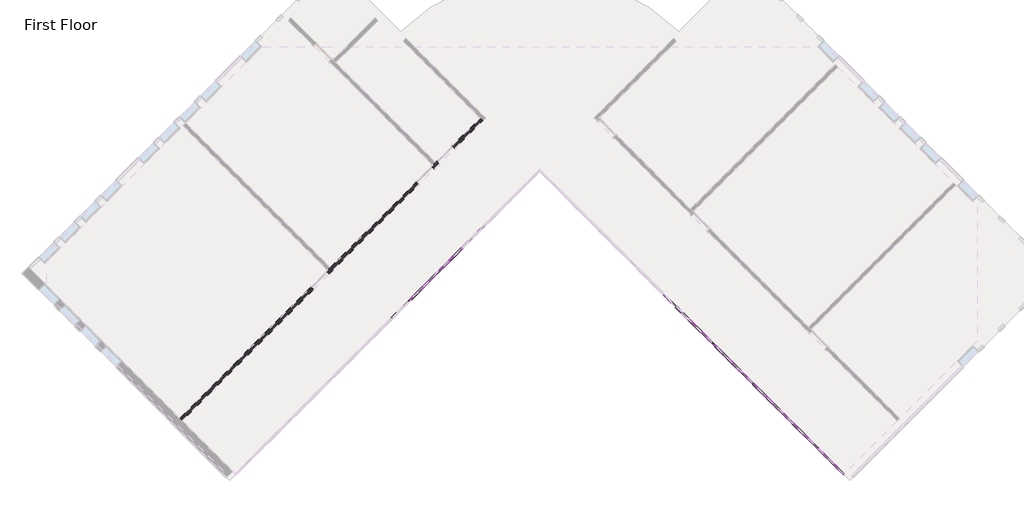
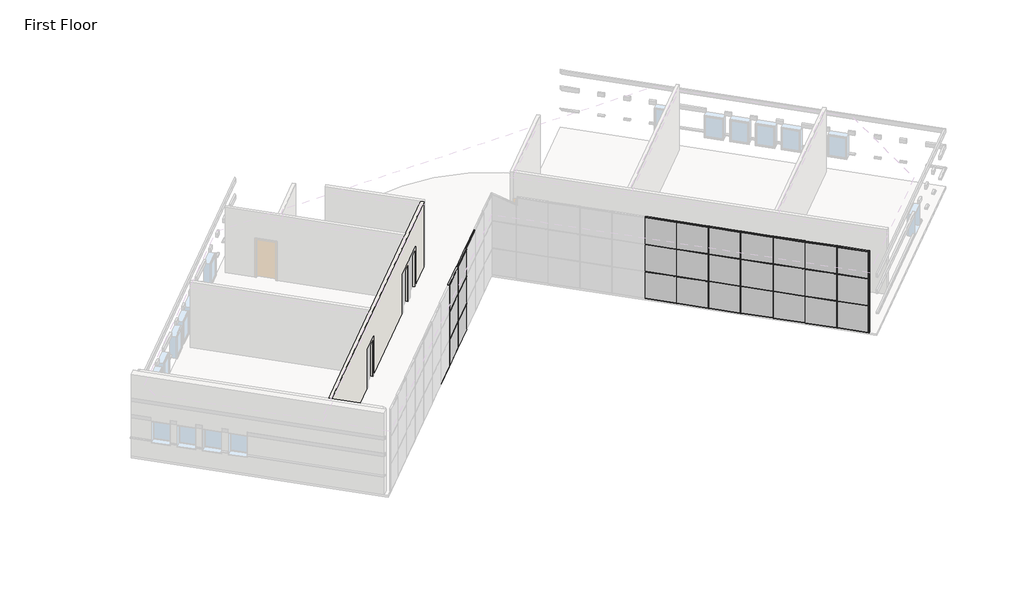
# One storey, part 2 of 5: 67 members, 27 plates, 1 wall.
"""IFC4 building model written with IfcOpenShell, lengths in millimetres."""

import ifcopenshell
import ifcopenshell.guid

model = None  # the IFC model being written
_history = None  # IfcOwnerHistory: only IFC2X3 demands one
_inside = {}  # id of a spatial element -> (the spatial element, [elements in it])
_under = {}  # id of a project, library or spatial element -> (it, [spatial elements below it])
_declared = {}  # id of a project -> (the project, [libraries it declares])
_typed = {}  # id of a type object -> (the type object, [elements of that type])
_made_of = {}  # id of a material, layer set ... -> (it, [elements and type objects made of it])


def new_model(schema):
    """Start an empty IFC model of exactly this schema.

    Asked for "IFC4X3", IfcOpenShell would pick the latest addendum, in which some entities
    have other attributes; the version numbers below select the first issue.
    IFC2X3 requires an IfcOwnerHistory on every rooted entity: one is made here for all.
    """
    global model, _history
    if schema == "IFC4X3":
        model = ifcopenshell.file(schema_version=(4, 3, 0, 0))
    else:
        model = ifcopenshell.file(schema=schema)
    _inside.clear()
    _under.clear()
    _declared.clear()
    _typed.clear()
    _made_of.clear()
    _history = None
    if model.schema == "IFC2X3":
        org = make("IfcOrganization", Name="unknown")
        user = make(
            "IfcPersonAndOrganization",
            ThePerson=make("IfcPerson", FamilyName="unknown"),
            TheOrganization=org,
        )
        app = make(
            "IfcApplication",
            ApplicationDeveloper=org,
            Version="unknown",
            ApplicationFullName="unknown",
            ApplicationIdentifier="unknown",
        )
        _history = make(
            "IfcOwnerHistory",
            OwningUser=user,
            OwningApplication=app,
            ChangeAction="ADDED",
            CreationDate=0,
        )
    return model


def make(cls, **values):
    """One entity of the class cls with the attributes given. An attribute that is None is left unset."""
    return model.create_entity(
        cls, **{name: value for name, value in values.items() if value is not None}
    )


def rooted(cls, **values):
    """An entity with a GlobalId (a new one), such as an element, a storey or a relation."""
    return make(cls, GlobalId=ifcopenshell.guid.new(), OwnerHistory=_history, **values)


def si_unit(unit_type, name, prefix=None):
    """IfcSIUnit, for example si_unit("LENGTHUNIT", "METRE", prefix="MILLI")."""
    return make("IfcSIUnit", UnitType=unit_type, Prefix=prefix, Name=name)


def assignment(units):
    """IfcUnitAssignment: the units of a project."""
    return None if units is None else make("IfcUnitAssignment", Units=units)


def point(xyz):
    """IfcCartesianPoint."""
    return None if xyz is None else make("IfcCartesianPoint", Coordinates=xyz)


def direction(xyz):
    """IfcDirection."""
    return None if xyz is None else make("IfcDirection", DirectionRatios=xyz)


def frame(location, z_axis=None, x_axis=None):
    """IfcAxis2Placement3D, a coordinate frame: its origin and axes. An axis left out is left unset."""
    return make(
        "IfcAxis2Placement3D",
        Location=point(location),
        Axis=direction(z_axis),
        RefDirection=direction(x_axis),
    )


def origin():
    """The frame at (0, 0, 0) with its axes left unset."""
    return frame((0.0, 0.0, 0.0))


def origin_with_axes():
    """The frame at (0, 0, 0) with the z axis (0, 0, 1) and the x axis (1, 0, 0) written out."""
    return frame((0.0, 0.0, 0.0), z_axis=(0.0, 0.0, 1.0), x_axis=(1.0, 0.0, 0.0))


def place(relative_to, where):
    """IfcLocalPlacement: puts the frame where relative to a parent placement (None: the world)."""
    return make(
        "IfcLocalPlacement", PlacementRelTo=relative_to, RelativePlacement=where
    )


def context(
    kind, dimensions, precision=None, world=None, true_north=None, identifier=None
):
    """IfcGeometricRepresentationContext, for example the 3D "Model" context."""
    return make(
        "IfcGeometricRepresentationContext",
        ContextIdentifier=identifier,
        ContextType=kind,
        CoordinateSpaceDimension=dimensions,
        Precision=precision,
        WorldCoordinateSystem=world,
        TrueNorth=true_north,
    )


def project(units=None, contexts=None):
    """IfcProject with its units and contexts."""
    return rooted(
        "IfcProject",
        Name="project",
        RepresentationContexts=contexts,
        UnitsInContext=assignment(units),
    )


def spatial(cls, under=None, at=None, **own):
    """A site, building, storey or space (cls), placed at a placement, below another one or the project."""
    s = rooted(cls, ObjectPlacement=at, **own)
    if under is not None:
        _under.setdefault(under.id(), (under, []))[1].append(s)
    return s


def polyline(points):
    """IfcPolyline through the points."""
    return make("IfcPolyline", Points=[point(p) for p in points])


def outline(outer, holes=None, kind="AREA"):
    """IfcArbitraryClosedProfileDef: a profile drawn as a closed curve; with holes, ...WithVoids."""
    if holes is None:
        return make("IfcArbitraryClosedProfileDef", ProfileType=kind, OuterCurve=outer)
    return make(
        "IfcArbitraryProfileDefWithVoids",
        ProfileType=kind,
        OuterCurve=outer,
        InnerCurves=holes,
    )


def extrude(swept, where, along, depth):
    """IfcExtrudedAreaSolid: the profile swept, set in the frame where, extruded along a direction by depth."""
    return make(
        "IfcExtrudedAreaSolid",
        SweptArea=swept,
        Position=where,
        ExtrudedDirection=direction(along),
        Depth=depth,
    )


def faces_of(points, faces, orient=None, outer=None):
    """IfcFace entities. A face is a list of loops; a loop is a list of indices into points, from 0.

    orient and outer hold one flag for each loop. By default every Orientation is true, the
    first loop of a face is its IfcFaceOuterBound and the others are IfcFaceBound.
    """
    made = []
    for i, loops in enumerate(faces):
        bounds = []
        for j, loop in enumerate(loops):
            is_outer = j == 0 if outer is None else outer[i][j]
            bounds.append(
                make(
                    "IfcFaceOuterBound" if is_outer else "IfcFaceBound",
                    Bound=make("IfcPolyLoop", Polygon=[points[k] for k in loop]),
                    Orientation=True if orient is None else orient[i][j],
                )
            )
        made.append(make("IfcFace", Bounds=bounds))
    return made


def faceted_brep(points, faces, orient=None, outer=None, voids=None):
    """IfcFacetedBrep: a solid bounded by flat faces; with voids (closed shells), ...WithVoids."""
    shared = [point(p) for p in points]
    hull = make("IfcClosedShell", CfsFaces=faces_of(shared, faces, orient, outer))
    if voids is None:
        return make("IfcFacetedBrep", Outer=hull)
    return make(
        "IfcFacetedBrepWithVoids",
        Outer=hull,
        Voids=[
            make(cls, CfsFaces=faces_of(shared, fs, o, b)) for cls, fs, o, b in voids
        ],
    )


def shape(context_of_items, identifier, shape_type, items):
    """IfcShapeRepresentation: the items that make up one representation, for example the "Body"."""
    return make(
        "IfcShapeRepresentation",
        ContextOfItems=context_of_items,
        RepresentationIdentifier=identifier,
        RepresentationType=shape_type,
        Items=items,
    )


def source(mapping_origin, context_of_items, identifier, shape_type, items):
    """IfcRepresentationMap: a shape defined once, which mapped items show again and again."""
    return make(
        "IfcRepresentationMap",
        MappingOrigin=mapping_origin,
        MappedRepresentation=shape(context_of_items, identifier, shape_type, items),
    )


def transform(
    local_origin,
    x_axis=None,
    y_axis=None,
    z_axis=None,
    scale=None,
    scale2=None,
    scale3=None,
    uniform=True,
):
    """IfcCartesianTransformationOperator3D, or its non-uniform kind. x_axis, y_axis, z_axis: its Axis1, 2, 3."""
    if uniform:
        return make(
            "IfcCartesianTransformationOperator3D",
            Axis1=direction(x_axis),
            Axis2=direction(y_axis),
            LocalOrigin=point(local_origin),
            Scale=scale,
            Axis3=direction(z_axis),
        )
    return make(
        "IfcCartesianTransformationOperator3DnonUniform",
        Axis1=direction(x_axis),
        Axis2=direction(y_axis),
        LocalOrigin=point(local_origin),
        Scale=scale,
        Axis3=direction(z_axis),
        Scale2=scale2,
        Scale3=scale3,
    )


def mapped(mapping_source, mapping_target):
    """IfcMappedItem: shows the shape of a source again, moved by a transform."""
    return make(
        "IfcMappedItem", MappingSource=mapping_source, MappingTarget=mapping_target
    )


def made_of(thing, what):
    """Note that an element or type object is made of a material, layer set ...; save() writes the relation."""
    if what is not None:
        _made_of.setdefault(what.id(), (what, []))[1].append(thing)
    return thing


def element(
    cls,
    number,
    at=None,
    inside=None,
    cuts=None,
    type_object=None,
    material=None,
    context=None,
    identifier="Body",
    shape_type=None,
    held_by="IfcProductDefinitionShape",
    body=None,
    shapes=None,
    **own,
):
    """One element of the class cls, such as IfcWall. Its Tag is "e" and its number.

    at: its placement. inside: the storey or other place that contains it. cuts: it is an
    opening in that element (IfcRelVoidsElement). A single representation is given by context,
    identifier, shape_type and body (its items); several are given by shapes. held_by: the class
    of the entity that holds the representations. save() writes the other relations.
    """
    e = rooted(cls, Tag="e%d" % number, ObjectPlacement=at, **own)
    if body is not None:
        shapes = [shape(context, identifier, shape_type, body)]
    if shapes is not None:
        e.Representation = make(held_by, Representations=shapes)
    if inside is not None:
        _inside.setdefault(inside.id(), (inside, []))[1].append(e)
    if cuts is not None:
        rooted(
            "IfcRelVoidsElement", RelatingBuildingElement=cuts, RelatedOpeningElement=e
        )
    if type_object is not None:
        _typed.setdefault(type_object.id(), (type_object, []))[1].append(e)
    return made_of(e, material)


def aggregate(whole, parts):
    """IfcRelAggregates: a whole, such as a stair, and the parts it consists of."""
    return rooted("IfcRelAggregates", RelatingObject=whole, RelatedObjects=parts)


def save(model, path):
    """Write the relations noted so far, then the file.

    IfcRelAggregates (storeys below a building ...), IfcRelContainedInSpatialStructure (elements
    in a storey), IfcRelDefinesByType, IfcRelAssociatesMaterial and IfcRelDeclares: one each for
    every whole, place, type object, material and project.
    """
    for whole, parts in _under.values():
        aggregate(whole, parts)
    for where, things in _inside.values():
        rooted(
            "IfcRelContainedInSpatialStructure",
            RelatedElements=things,
            RelatingStructure=where,
        )
    for kind, things in _typed.values():
        rooted("IfcRelDefinesByType", RelatedObjects=things, RelatingType=kind)
    for what, things in _made_of.values():
        rooted("IfcRelAssociatesMaterial", RelatedObjects=things, RelatingMaterial=what)
    for by, libraries in _declared.values():
        rooted("IfcRelDeclares", RelatingContext=by, RelatedDefinitions=libraries)
    model.write(path)


def member_6121af53(model_context):
    return source(origin(), model_context, "Body", "SweptSolid", [
        extrude(outline(polyline([(0.0, 31.75), (0.0, -31.75), (-38.1, -31.75), (-38.1, 31.75), (0.0, 31.75)])), frame((0.0, 0.0, -1485.9), z_axis=(0.0, 0.0, 1.0), x_axis=(1.0, 0.0, 0.0)), (0.0, 0.0, 1.0), 1485.9),
    ])


def member_155beb68(model_context):
    return source(origin(), model_context, "Body", "SweptSolid", [
        extrude(outline(polyline([(19.05, 31.75), (19.05, -31.75), (-19.05, -31.75), (-19.05, 31.75), (19.05, 31.75)])), frame((0.0, 0.0, -1524.0), z_axis=(0.0, 0.0, 1.0), x_axis=(1.0, 0.0, 0.0)), (0.0, 0.0, 1.0), 1524.0),
    ])


def member_f5090587(model_context):
    return source(origin(), model_context, "Body", "SweptSolid", [
        extrude(outline(polyline([(19.05, 31.75), (19.05, -31.75), (-19.05, -31.75), (-19.05, 31.75), (19.05, 31.75)])), frame((0.0, 0.0, -1466.85), z_axis=(0.0, 0.0, 1.0), x_axis=(1.0, 0.0, 0.0)), (0.0, 0.0, 1.0), 1466.85),
    ])


def member_42be4715(model_context):
    return source(origin(), model_context, "Body", "SweptSolid", [
        extrude(outline(polyline([(19.05, 31.75), (19.05, -31.75), (-19.05, -31.75), (-19.05, 31.75), (19.05, 31.75)])), frame((0.0, 0.0, -1485.9), z_axis=(0.0, 0.0, 1.0), x_axis=(1.0, 0.0, 0.0)), (0.0, 0.0, 1.0), 1485.9),
    ])


def member_b8a5b5c0(model_context):
    return source(origin(), model_context, "Body", "SweptSolid", [
        extrude(outline(polyline([(0.0, 31.75), (0.0, -31.75), (-38.1, -31.75), (-38.1, 31.75), (0.0, 31.75)])), frame((0.0, 0.0, -1466.85), z_axis=(0.0, 0.0, 1.0), x_axis=(1.0, 0.0, 0.0)), (0.0, 0.0, 1.0), 1466.85),
    ])


def member_b87a50da(model_context):
    return source(origin(), model_context, "Body", "SweptSolid", [
        extrude(outline(polyline([(0.0, 31.75), (0.0, -31.75), (-38.1, -31.75), (-38.1, 31.75), (0.0, 31.75)])), frame((0.0, 0.0, -1524.0), z_axis=(0.0, 0.0, 1.0), x_axis=(1.0, 0.0, 0.0)), (0.0, 0.0, 1.0), 1524.0),
    ])


def system_panel_glazed_f8555db4(model_context):
    return source(origin(), model_context, "Body", "SweptSolid", [
        extrude(outline(polyline([(733.425, 19.05), (-733.425, 19.05), (-733.425, 44.45), (733.425, 44.45), (733.425, 19.05)])), origin_with_axes(), (0.0, 0.0, 1.0), 1466.85),
    ])


def system_panel_glazed_da345f4e(model_context):
    return source(origin(), model_context, "Body", "SweptSolid", [
        extrude(outline(polyline([(742.95, 19.05), (-742.95, 19.05), (-742.95, 44.45), (742.95, 44.45), (742.95, 19.05)])), origin_with_axes(), (0.0, 0.0, 1.0), 1466.85),
    ])


def system_panel_glazed_d4009c89(model_context):
    return source(origin(), model_context, "Body", "SweptSolid", [
        extrude(outline(polyline([(733.425, 19.05), (-733.425, 19.05), (-733.425, 44.45), (733.425, 44.45), (733.425, 19.05)])), origin_with_axes(), (0.0, 0.0, 1.0), 1485.9),
    ])


def system_panel_glazed_f1e4c5b0(model_context):
    return source(origin(), model_context, "Body", "SweptSolid", [
        extrude(outline(polyline([(742.95, 19.05), (-742.95, 19.05), (-742.95, 44.45), (742.95, 44.45), (742.95, 19.05)])), origin_with_axes(), (0.0, 0.0, 1.0), 1485.9),
    ])


def system_panel_solid_99f695d0(model_context):
    return source(origin(), model_context, "Body", "SweptSolid", [
        extrude(outline(polyline([(733.425, -19.05), (-733.425, -19.05), (-733.425, 44.45), (733.425, 44.45), (733.425, -19.05)])), origin_with_axes(), (0.0, 0.0, 1.0), 1466.85),
    ])


def system_panel_solid_2f1037e2(model_context):
    return source(origin(), model_context, "Body", "SweptSolid", [
        extrude(outline(polyline([(742.95, -19.05), (-742.95, -19.05), (-742.95, 44.45), (742.95, 44.45), (742.95, -19.05)])), origin_with_axes(), (0.0, 0.0, 1.0), 1466.85),
    ])


model = new_model("IFC4")

# Units and contexts
model_context = context("Model", 3, world=origin())
ifc_project = project(units=[si_unit("LENGTHUNIT", "METRE", prefix="MILLI")], contexts=[model_context])

# Site, building, storey
site = spatial("IfcSite", under=ifc_project)
building = spatial("IfcBuilding", under=site)
storey = spatial("IfcBuildingStorey", under=building, Name="First Floor", Elevation=0.0)

# Members
placement = place(None, origin())
member_shape = member_6121af53(model_context)
element("IfcMember", 1, ObjectType="Rectangular Mullion : 1.5\" x 2.5\" Rectangular", at=placement, inside=storey, context=model_context, shape_type="MappedRepresentation", body=[
    mapped(member_shape, transform((-6087.4501837, -266.8883914, 4572.0), x_axis=(0.0, 0.0, 1.0), y_axis=(-0.7071067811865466, 0.7071067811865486, 0.0), z_axis=(-0.7071067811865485, -0.7071067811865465, 0.0))),
])
element("IfcMember", 2, ObjectType="Rectangular Mullion : 1.5\" x 2.5\" Rectangular", at=placement, inside=storey, context=model_context, shape_type="MappedRepresentation", body=[
    mapped(member_shape, transform((-7165.0809182, -1344.5191259, 4572.0), x_axis=(0.0, 0.0, 1.0), y_axis=(-0.7071067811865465, 0.7071067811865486, 0.0), z_axis=(-0.7071067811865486, -0.7071067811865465, 0.0))),
])
element("IfcMember", 3, ObjectType="Rectangular Mullion : 1.5\" x 2.5\" Rectangular", at=placement, inside=storey, context=model_context, shape_type="MappedRepresentation", body=[
    mapped(member_shape, transform((-8242.7116528, -2422.1498604, 4572.0), x_axis=(0.0, 0.0, 1.0), y_axis=(-0.7071067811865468, 0.7071067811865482, 0.0), z_axis=(-0.7071067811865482, -0.7071067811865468, 0.0))),
])
element("IfcMember", 4, ObjectType="Rectangular Mullion : 1.5\" x 2.5\" Rectangular", at=placement, inside=storey, context=model_context, shape_type="MappedRepresentation", body=[
    mapped(member_shape, transform((2284.3935852, -2199.8885214, 4572.0), x_axis=(0.0, 0.0, 1.0), y_axis=(0.7071067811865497, 0.7071067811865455, 0.0), z_axis=(-0.7071067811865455, 0.7071067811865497, 0.0))),
])
element("IfcMember", 5, ObjectType="Rectangular Mullion : 1.5\" x 2.5\" Rectangular", at=placement, inside=storey, context=model_context, shape_type="MappedRepresentation", body=[
    mapped(member_shape, transform((3362.0243197, -3277.519256, 4572.0), x_axis=(0.0, 0.0, 1.0), y_axis=(0.70710678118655, 0.707106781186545, 0.0), z_axis=(-0.707106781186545, 0.70710678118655, 0.0))),
])
element("IfcMember", 6, ObjectType="Rectangular Mullion : 1.5\" x 2.5\" Rectangular", at=placement, inside=storey, context=model_context, shape_type="MappedRepresentation", body=[
    mapped(member_shape, transform((4439.6550542, -4355.1499905, 4572.0), x_axis=(0.0, 0.0, 1.0), y_axis=(0.7071067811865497, 0.7071067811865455, 0.0), z_axis=(-0.7071067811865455, 0.7071067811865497, 0.0))),
])
element("IfcMember", 7, ObjectType="Rectangular Mullion : 1.5\" x 2.5\" Rectangular", at=placement, inside=storey, context=model_context, shape_type="MappedRepresentation", body=[
    mapped(member_shape, transform((5517.2857887, -5432.780725, 4572.0), x_axis=(0.0, 0.0, 1.0), y_axis=(0.7071067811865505, 0.7071067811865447, 0.0), z_axis=(-0.7071067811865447, 0.7071067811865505, 0.0))),
])
element("IfcMember", 8, ObjectType="Rectangular Mullion : 1.5\" x 2.5\" Rectangular", at=placement, inside=storey, context=model_context, shape_type="MappedRepresentation", body=[
    mapped(member_shape, transform((6594.9165233, -6510.4114596, 4572.0), x_axis=(0.0, 0.0, 1.0), y_axis=(0.7071067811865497, 0.7071067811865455, 0.0), z_axis=(-0.7071067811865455, 0.7071067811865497, 0.0))),
])
element("IfcMember", 9, ObjectType="Rectangular Mullion : 1.5\" x 2.5\" Rectangular", at=placement, inside=storey, context=model_context, shape_type="MappedRepresentation", body=[
    mapped(member_shape, transform((7672.5472578, -7588.0421941, 4572.0), x_axis=(0.0, 0.0, 1.0), y_axis=(0.7071067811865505, 0.7071067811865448, 0.0), z_axis=(-0.7071067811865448, 0.7071067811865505, 0.0))),
])
member_2_shape = member_155beb68(model_context)
element("IfcMember", 10, ObjectType="Rectangular Mullion : 1.5\" x 2.5\" Rectangular", at=placement, inside=storey, context=model_context, shape_type="MappedRepresentation", body=[
    mapped(member_2_shape, transform((-6100.9205679, -280.3587756, 1524.0), x_axis=(-0.7071067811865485, -0.7071067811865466, 0.0), y_axis=(-0.7071067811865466, 0.7071067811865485, 0.0), z_axis=(0.0, 0.0, -1.0))),
])
element("IfcMember", 11, ObjectType="Rectangular Mullion : 1.5\" x 2.5\" Rectangular", at=placement, inside=storey, context=model_context, shape_type="MappedRepresentation", body=[
    mapped(member_2_shape, transform((-7178.5513024, -1357.9895101, 1524.0), x_axis=(-0.7071067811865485, -0.7071067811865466, 0.0), y_axis=(-0.7071067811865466, 0.7071067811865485, 0.0), z_axis=(0.0, 0.0, -1.0))),
])
element("IfcMember", 12, ObjectType="Rectangular Mullion : 1.5\" x 2.5\" Rectangular", at=placement, inside=storey, context=model_context, shape_type="MappedRepresentation", body=[
    mapped(member_2_shape, transform((5503.8154046, -5419.3103408, 1524.0), x_axis=(-0.7071067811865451, 0.70710678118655, 0.0), y_axis=(0.70710678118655, 0.7071067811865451, 0.0), z_axis=(0.0, 0.0, -1.0))),
])
element("IfcMember", 13, ObjectType="Rectangular Mullion : 1.5\" x 2.5\" Rectangular", at=placement, inside=storey, context=model_context, shape_type="MappedRepresentation", body=[
    mapped(member_2_shape, transform((4426.18467, -4341.6796063, 1524.0), x_axis=(-0.7071067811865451, 0.70710678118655, 0.0), y_axis=(0.70710678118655, 0.7071067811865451, 0.0), z_axis=(0.0, 0.0, -1.0))),
])
element("IfcMember", 14, ObjectType="Rectangular Mullion : 1.5\" x 2.5\" Rectangular", at=placement, inside=storey, context=model_context, shape_type="MappedRepresentation", body=[
    mapped(member_2_shape, transform((3348.5539355, -3264.0488718, 1524.0), x_axis=(-0.7071067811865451, 0.70710678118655, 0.0), y_axis=(0.70710678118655, 0.7071067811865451, 0.0), z_axis=(0.0, 0.0, -1.0))),
])
element("IfcMember", 15, ObjectType="Rectangular Mullion : 1.5\" x 2.5\" Rectangular", at=placement, inside=storey, context=model_context, shape_type="MappedRepresentation", body=[
    mapped(member_2_shape, transform((8736.7076081, -8652.2025444, 1524.0), x_axis=(-0.7071067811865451, 0.70710678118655, 0.0), y_axis=(0.70710678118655, 0.7071067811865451, 0.0), z_axis=(0.0, 0.0, -1.0))),
])
element("IfcMember", 16, ObjectType="Rectangular Mullion : 1.5\" x 2.5\" Rectangular", at=placement, inside=storey, context=model_context, shape_type="MappedRepresentation", body=[
    mapped(member_2_shape, transform((7659.0768736, -7574.5718099, 1524.0), x_axis=(-0.7071067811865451, 0.70710678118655, 0.0), y_axis=(0.70710678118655, 0.7071067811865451, 0.0), z_axis=(0.0, 0.0, -1.0))),
])
element("IfcMember", 17, ObjectType="Rectangular Mullion : 1.5\" x 2.5\" Rectangular", at=placement, inside=storey, context=model_context, shape_type="MappedRepresentation", body=[
    mapped(member_2_shape, transform((6581.4461391, -6496.9410754, 1524.0), x_axis=(-0.7071067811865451, 0.70710678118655, 0.0), y_axis=(0.70710678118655, 0.7071067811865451, 0.0), z_axis=(0.0, 0.0, -1.0))),
])
element("IfcMember", 18, ObjectType="Rectangular Mullion : 1.5\" x 2.5\" Rectangular", at=placement, inside=storey, context=model_context, shape_type="MappedRepresentation", body=[
    mapped(member_2_shape, transform((-6100.9205679, -280.3587756, 3048.0), x_axis=(-0.7071067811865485, -0.7071067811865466, 0.0), y_axis=(-0.7071067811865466, 0.7071067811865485, 0.0), z_axis=(0.0, 0.0, -1.0))),
])
element("IfcMember", 19, ObjectType="Rectangular Mullion : 1.5\" x 2.5\" Rectangular", at=placement, inside=storey, context=model_context, shape_type="MappedRepresentation", body=[
    mapped(member_2_shape, transform((-7178.5513024, -1357.9895101, 3048.0), x_axis=(-0.7071067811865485, -0.7071067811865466, 0.0), y_axis=(-0.7071067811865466, 0.7071067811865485, 0.0), z_axis=(0.0, 0.0, -1.0))),
])
element("IfcMember", 20, ObjectType="Rectangular Mullion : 1.5\" x 2.5\" Rectangular", at=placement, inside=storey, context=model_context, shape_type="MappedRepresentation", body=[
    mapped(member_2_shape, transform((-8256.1820369, -2435.6202446, 3048.0), x_axis=(-0.7071067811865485, -0.7071067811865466, 0.0), y_axis=(-0.7071067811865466, 0.7071067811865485, 0.0), z_axis=(0.0, 0.0, -1.0))),
])
element("IfcMember", 21, ObjectType="Rectangular Mullion : 1.5\" x 2.5\" Rectangular", at=placement, inside=storey, context=model_context, shape_type="MappedRepresentation", body=[
    mapped(member_2_shape, transform((5503.8154046, -5419.3103408, 3048.0), x_axis=(-0.7071067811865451, 0.70710678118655, 0.0), y_axis=(0.70710678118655, 0.7071067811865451, 0.0), z_axis=(0.0, 0.0, -1.0))),
])
element("IfcMember", 22, ObjectType="Rectangular Mullion : 1.5\" x 2.5\" Rectangular", at=placement, inside=storey, context=model_context, shape_type="MappedRepresentation", body=[
    mapped(member_2_shape, transform((4426.18467, -4341.6796063, 3048.0), x_axis=(-0.7071067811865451, 0.70710678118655, 0.0), y_axis=(0.70710678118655, 0.7071067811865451, 0.0), z_axis=(0.0, 0.0, -1.0))),
])
element("IfcMember", 23, ObjectType="Rectangular Mullion : 1.5\" x 2.5\" Rectangular", at=placement, inside=storey, context=model_context, shape_type="MappedRepresentation", body=[
    mapped(member_2_shape, transform((3348.5539355, -3264.0488718, 3048.0), x_axis=(-0.7071067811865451, 0.70710678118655, 0.0), y_axis=(0.70710678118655, 0.7071067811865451, 0.0), z_axis=(0.0, 0.0, -1.0))),
])
element("IfcMember", 24, ObjectType="Rectangular Mullion : 1.5\" x 2.5\" Rectangular", at=placement, inside=storey, context=model_context, shape_type="MappedRepresentation", body=[
    mapped(member_2_shape, transform((8736.7076081, -8652.2025444, 3048.0), x_axis=(-0.7071067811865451, 0.70710678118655, 0.0), y_axis=(0.70710678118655, 0.7071067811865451, 0.0), z_axis=(0.0, 0.0, -1.0))),
])
element("IfcMember", 25, ObjectType="Rectangular Mullion : 1.5\" x 2.5\" Rectangular", at=placement, inside=storey, context=model_context, shape_type="MappedRepresentation", body=[
    mapped(member_2_shape, transform((7659.0768736, -7574.5718099, 3048.0), x_axis=(-0.7071067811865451, 0.70710678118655, 0.0), y_axis=(0.70710678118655, 0.7071067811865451, 0.0), z_axis=(0.0, 0.0, -1.0))),
])
element("IfcMember", 26, ObjectType="Rectangular Mullion : 1.5\" x 2.5\" Rectangular", at=placement, inside=storey, context=model_context, shape_type="MappedRepresentation", body=[
    mapped(member_2_shape, transform((6581.4461391, -6496.9410754, 3048.0), x_axis=(-0.7071067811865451, 0.70710678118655, 0.0), y_axis=(0.70710678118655, 0.7071067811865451, 0.0), z_axis=(0.0, 0.0, -1.0))),
])
element("IfcMember", 27, ObjectType="Rectangular Mullion : 1.5\" x 2.5\" Rectangular", at=placement, inside=storey, context=model_context, shape_type="MappedRepresentation", body=[
    mapped(member_2_shape, transform((-6100.9205679, -280.3587756, 0.0), x_axis=(-0.7071067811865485, -0.7071067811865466, 0.0), y_axis=(-0.7071067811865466, 0.7071067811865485, 0.0), z_axis=(0.0, 0.0, -1.0))),
])
element("IfcMember", 28, ObjectType="Rectangular Mullion : 1.5\" x 2.5\" Rectangular", at=placement, inside=storey, context=model_context, shape_type="MappedRepresentation", body=[
    mapped(member_2_shape, transform((-7178.5513024, -1357.9895101, 0.0), x_axis=(-0.7071067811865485, -0.7071067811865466, 0.0), y_axis=(-0.7071067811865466, 0.7071067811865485, 0.0), z_axis=(0.0, 0.0, -1.0))),
])
element("IfcMember", 29, ObjectType="Rectangular Mullion : 1.5\" x 2.5\" Rectangular", at=placement, inside=storey, context=model_context, shape_type="MappedRepresentation", body=[
    mapped(member_2_shape, transform((-8256.1820369, -2435.6202446, 0.0), x_axis=(-0.7071067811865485, -0.7071067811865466, 0.0), y_axis=(-0.7071067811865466, 0.7071067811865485, 0.0), z_axis=(0.0, 0.0, -1.0))),
])
element("IfcMember", 30, ObjectType="Rectangular Mullion : 1.5\" x 2.5\" Rectangular", at=placement, inside=storey, context=model_context, shape_type="MappedRepresentation", body=[
    mapped(member_2_shape, transform((3348.5539355, -3264.0488718, 0.0), x_axis=(-0.7071067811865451, 0.70710678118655, 0.0), y_axis=(0.70710678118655, 0.7071067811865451, 0.0), z_axis=(0.0, 0.0, -1.0))),
])
element("IfcMember", 31, ObjectType="Rectangular Mullion : 1.5\" x 2.5\" Rectangular", at=placement, inside=storey, context=model_context, shape_type="MappedRepresentation", body=[
    mapped(member_2_shape, transform((4426.18467, -4341.6796063, 0.0), x_axis=(-0.7071067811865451, 0.70710678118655, 0.0), y_axis=(0.70710678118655, 0.7071067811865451, 0.0), z_axis=(0.0, 0.0, -1.0))),
])
element("IfcMember", 32, ObjectType="Rectangular Mullion : 1.5\" x 2.5\" Rectangular", at=placement, inside=storey, context=model_context, shape_type="MappedRepresentation", body=[
    mapped(member_2_shape, transform((5503.8154046, -5419.3103408, 0.0), x_axis=(-0.7071067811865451, 0.70710678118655, 0.0), y_axis=(0.70710678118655, 0.7071067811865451, 0.0), z_axis=(0.0, 0.0, -1.0))),
])
element("IfcMember", 33, ObjectType="Rectangular Mullion : 1.5\" x 2.5\" Rectangular", at=placement, inside=storey, context=model_context, shape_type="MappedRepresentation", body=[
    mapped(member_2_shape, transform((6581.4461391, -6496.9410754, 0.0), x_axis=(-0.7071067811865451, 0.70710678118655, 0.0), y_axis=(0.70710678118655, 0.7071067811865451, 0.0), z_axis=(0.0, 0.0, -1.0))),
])
element("IfcMember", 34, ObjectType="Rectangular Mullion : 1.5\" x 2.5\" Rectangular", at=placement, inside=storey, context=model_context, shape_type="MappedRepresentation", body=[
    mapped(member_2_shape, transform((7659.0768736, -7574.5718099, 0.0), x_axis=(-0.7071067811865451, 0.70710678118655, 0.0), y_axis=(0.70710678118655, 0.7071067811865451, 0.0), z_axis=(0.0, 0.0, -1.0))),
])
element("IfcMember", 35, ObjectType="Rectangular Mullion : 1.5\" x 2.5\" Rectangular", at=placement, inside=storey, context=model_context, shape_type="MappedRepresentation", body=[
    mapped(member_2_shape, transform((8736.7076081, -8652.2025444, 0.0), x_axis=(-0.7071067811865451, 0.70710678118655, 0.0), y_axis=(0.70710678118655, 0.7071067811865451, 0.0), z_axis=(0.0, 0.0, -1.0))),
])
member_3_shape = member_f5090587(model_context)
element("IfcMember", 36, ObjectType="Rectangular Mullion : 1.5\" x 2.5\" Rectangular", at=placement, inside=storey, context=model_context, shape_type="MappedRepresentation", body=[
    mapped(member_3_shape, transform((8750.1779923, -8665.6729286, 3048.0), x_axis=(0.0, 0.0, 1.0), y_axis=(0.70710678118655, 0.707106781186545, 0.0), z_axis=(-0.7071067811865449, 0.7071067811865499, 0.0))),
])
element("IfcMember", 37, ObjectType="Rectangular Mullion : 1.5\" x 2.5\" Rectangular", at=placement, inside=storey, context=model_context, shape_type="MappedRepresentation", body=[
    mapped(member_3_shape, transform((8750.1779923, -8665.6729286, 1524.0), x_axis=(0.0, 0.0, 1.0), y_axis=(0.7071067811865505, 0.7071067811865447, 0.0), z_axis=(-0.7071067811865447, 0.7071067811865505, 0.0))),
])
member_4_shape = member_42be4715(model_context)
element("IfcMember", 38, ObjectType="Rectangular Mullion : 1.5\" x 2.5\" Rectangular", at=placement, inside=storey, context=model_context, shape_type="MappedRepresentation", body=[
    mapped(member_4_shape, transform((-6087.4501837, -266.8883914, 3048.0), x_axis=(0.0, 0.0, 1.0), y_axis=(-0.7071067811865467, 0.7071067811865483, 0.0), z_axis=(-0.7071067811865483, -0.7071067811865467, 0.0))),
])
element("IfcMember", 39, ObjectType="Rectangular Mullion : 1.5\" x 2.5\" Rectangular", at=placement, inside=storey, context=model_context, shape_type="MappedRepresentation", body=[
    mapped(member_4_shape, transform((-7165.0809182, -1344.5191259, 3048.0), x_axis=(0.0, 0.0, 1.0), y_axis=(-0.7071067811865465, 0.7071067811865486, 0.0), z_axis=(-0.7071067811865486, -0.7071067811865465, 0.0))),
])
element("IfcMember", 40, ObjectType="Rectangular Mullion : 1.5\" x 2.5\" Rectangular", at=placement, inside=storey, context=model_context, shape_type="MappedRepresentation", body=[
    mapped(member_4_shape, transform((-8242.7116528, -2422.1498604, 3048.0), x_axis=(0.0, 0.0, 1.0), y_axis=(-0.7071067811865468, 0.7071067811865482, 0.0), z_axis=(-0.7071067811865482, -0.7071067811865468, 0.0))),
])
element("IfcMember", 41, ObjectType="Rectangular Mullion : 1.5\" x 2.5\" Rectangular", at=placement, inside=storey, context=model_context, shape_type="MappedRepresentation", body=[
    mapped(member_4_shape, transform((-6087.4501837, -266.8883914, 1524.0), x_axis=(0.0, 0.0, 1.0), y_axis=(-0.7071067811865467, 0.7071067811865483, 0.0), z_axis=(-0.7071067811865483, -0.7071067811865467, 0.0))),
])
element("IfcMember", 42, ObjectType="Rectangular Mullion : 1.5\" x 2.5\" Rectangular", at=placement, inside=storey, context=model_context, shape_type="MappedRepresentation", body=[
    mapped(member_4_shape, transform((-7165.0809182, -1344.5191259, 1524.0), x_axis=(0.0, 0.0, 1.0), y_axis=(-0.7071067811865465, 0.7071067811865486, 0.0), z_axis=(-0.7071067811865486, -0.7071067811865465, 0.0))),
])
element("IfcMember", 43, ObjectType="Rectangular Mullion : 1.5\" x 2.5\" Rectangular", at=placement, inside=storey, context=model_context, shape_type="MappedRepresentation", body=[
    mapped(member_4_shape, transform((-8242.7116528, -2422.1498604, 1524.0), x_axis=(0.0, 0.0, 1.0), y_axis=(-0.7071067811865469, 0.7071067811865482, 0.0), z_axis=(-0.7071067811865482, -0.7071067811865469, 0.0))),
])
element("IfcMember", 44, ObjectType="Rectangular Mullion : 1.5\" x 2.5\" Rectangular", at=placement, inside=storey, context=model_context, shape_type="MappedRepresentation", body=[
    mapped(member_4_shape, transform((3362.0243197, -3277.519256, 3048.0), x_axis=(0.0, 0.0, 1.0), y_axis=(0.70710678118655, 0.707106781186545, 0.0), z_axis=(-0.707106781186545, 0.70710678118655, 0.0))),
])
element("IfcMember", 45, ObjectType="Rectangular Mullion : 1.5\" x 2.5\" Rectangular", at=placement, inside=storey, context=model_context, shape_type="MappedRepresentation", body=[
    mapped(member_4_shape, transform((4439.6550542, -4355.1499905, 3048.0), x_axis=(0.0, 0.0, 1.0), y_axis=(0.7071067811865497, 0.7071067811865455, 0.0), z_axis=(-0.7071067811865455, 0.7071067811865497, 0.0))),
])
element("IfcMember", 46, ObjectType="Rectangular Mullion : 1.5\" x 2.5\" Rectangular", at=placement, inside=storey, context=model_context, shape_type="MappedRepresentation", body=[
    mapped(member_4_shape, transform((5517.2857887, -5432.780725, 3048.0), x_axis=(0.0, 0.0, 1.0), y_axis=(0.7071067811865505, 0.7071067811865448, 0.0), z_axis=(-0.7071067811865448, 0.7071067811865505, 0.0))),
])
element("IfcMember", 47, ObjectType="Rectangular Mullion : 1.5\" x 2.5\" Rectangular", at=placement, inside=storey, context=model_context, shape_type="MappedRepresentation", body=[
    mapped(member_4_shape, transform((6594.9165233, -6510.4114596, 3048.0), x_axis=(0.0, 0.0, 1.0), y_axis=(0.7071067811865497, 0.7071067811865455, 0.0), z_axis=(-0.7071067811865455, 0.7071067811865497, 0.0))),
])
element("IfcMember", 48, ObjectType="Rectangular Mullion : 1.5\" x 2.5\" Rectangular", at=placement, inside=storey, context=model_context, shape_type="MappedRepresentation", body=[
    mapped(member_4_shape, transform((7672.5472578, -7588.0421941, 3048.0), x_axis=(0.0, 0.0, 1.0), y_axis=(0.7071067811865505, 0.7071067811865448, 0.0), z_axis=(-0.7071067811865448, 0.7071067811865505, 0.0))),
])
element("IfcMember", 49, ObjectType="Rectangular Mullion : 1.5\" x 2.5\" Rectangular", at=placement, inside=storey, context=model_context, shape_type="MappedRepresentation", body=[
    mapped(member_4_shape, transform((3362.0243197, -3277.519256, 1524.0), x_axis=(0.0, 0.0, 1.0), y_axis=(0.70710678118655, 0.707106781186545, 0.0), z_axis=(-0.707106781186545, 0.70710678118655, 0.0))),
])
element("IfcMember", 50, ObjectType="Rectangular Mullion : 1.5\" x 2.5\" Rectangular", at=placement, inside=storey, context=model_context, shape_type="MappedRepresentation", body=[
    mapped(member_4_shape, transform((4439.6550542, -4355.1499905, 1524.0), x_axis=(0.0, 0.0, 1.0), y_axis=(0.7071067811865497, 0.7071067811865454, 0.0), z_axis=(-0.7071067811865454, 0.7071067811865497, 0.0))),
])
element("IfcMember", 51, ObjectType="Rectangular Mullion : 1.5\" x 2.5\" Rectangular", at=placement, inside=storey, context=model_context, shape_type="MappedRepresentation", body=[
    mapped(member_4_shape, transform((5517.2857887, -5432.780725, 1524.0), x_axis=(0.0, 0.0, 1.0), y_axis=(0.7071067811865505, 0.7071067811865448, 0.0), z_axis=(-0.7071067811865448, 0.7071067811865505, 0.0))),
])
element("IfcMember", 52, ObjectType="Rectangular Mullion : 1.5\" x 2.5\" Rectangular", at=placement, inside=storey, context=model_context, shape_type="MappedRepresentation", body=[
    mapped(member_4_shape, transform((6594.9165233, -6510.4114596, 1524.0), x_axis=(0.0, 0.0, 1.0), y_axis=(0.7071067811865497, 0.7071067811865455, 0.0), z_axis=(-0.7071067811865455, 0.7071067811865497, 0.0))),
])
element("IfcMember", 53, ObjectType="Rectangular Mullion : 1.5\" x 2.5\" Rectangular", at=placement, inside=storey, context=model_context, shape_type="MappedRepresentation", body=[
    mapped(member_4_shape, transform((7672.5472578, -7588.0421941, 1524.0), x_axis=(0.0, 0.0, 1.0), y_axis=(0.70710678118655, 0.707106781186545, 0.0), z_axis=(-0.707106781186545, 0.70710678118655, 0.0))),
])
member_5_shape = member_b8a5b5c0(model_context)
element("IfcMember", 54, ObjectType="Rectangular Mullion : 1.5\" x 2.5\" Rectangular", at=placement, inside=storey, context=model_context, shape_type="MappedRepresentation", body=[
    mapped(member_5_shape, transform((9787.3975743, -9702.8925106, 0.0), x_axis=(0.0, 0.0, -1.0), y_axis=(0.7071067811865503, 0.7071067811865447, 0.0), z_axis=(0.7071067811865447, -0.7071067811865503, 0.0))),
])
element("IfcMember", 55, ObjectType="Rectangular Mullion : 1.5\" x 2.5\" Rectangular", at=placement, inside=storey, context=model_context, shape_type="MappedRepresentation", body=[
    mapped(member_shape, transform((-6114.3909521, -293.8291597, 0.0), x_axis=(0.0, 0.0, -1.0), y_axis=(-0.7071067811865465, 0.7071067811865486, 0.0), z_axis=(0.7071067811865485, 0.7071067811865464, 0.0))),
])
element("IfcMember", 56, ObjectType="Rectangular Mullion : 1.5\" x 2.5\" Rectangular", at=placement, inside=storey, context=model_context, shape_type="MappedRepresentation", body=[
    mapped(member_shape, transform((-7192.0216866, -1371.4598943, 0.0), x_axis=(0.0, 0.0, -1.0), y_axis=(-0.7071067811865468, 0.7071067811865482, 0.0), z_axis=(0.7071067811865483, 0.7071067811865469, 0.0))),
])
element("IfcMember", 57, ObjectType="Rectangular Mullion : 1.5\" x 2.5\" Rectangular", at=placement, inside=storey, context=model_context, shape_type="MappedRepresentation", body=[
    mapped(member_shape, transform((-8269.6524211, -2449.0906288, 0.0), x_axis=(0.0, 0.0, -1.0), y_axis=(-0.7071067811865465, 0.7071067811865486, 0.0), z_axis=(0.7071067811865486, 0.7071067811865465, 0.0))),
])
element("IfcMember", 58, ObjectType="Rectangular Mullion : 1.5\" x 2.5\" Rectangular", at=placement, inside=storey, context=model_context, shape_type="MappedRepresentation", body=[
    mapped(member_shape, transform((6567.9757549, -6483.4706912, 0.0), x_axis=(0.0, 0.0, -1.0), y_axis=(0.7071067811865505, 0.7071067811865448, 0.0), z_axis=(0.7071067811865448, -0.7071067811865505, 0.0))),
])
element("IfcMember", 59, ObjectType="Rectangular Mullion : 1.5\" x 2.5\" Rectangular", at=placement, inside=storey, context=model_context, shape_type="MappedRepresentation", body=[
    mapped(member_shape, transform((7645.6064894, -7561.1014257, 0.0), x_axis=(0.0, 0.0, -1.0), y_axis=(0.7071067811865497, 0.7071067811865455, 0.0), z_axis=(0.7071067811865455, -0.7071067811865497, 0.0))),
])
element("IfcMember", 60, ObjectType="Rectangular Mullion : 1.5\" x 2.5\" Rectangular", at=placement, inside=storey, context=model_context, shape_type="MappedRepresentation", body=[
    mapped(member_shape, transform((8723.237224, -8638.7321603, 0.0), x_axis=(0.0, 0.0, -1.0), y_axis=(0.70710678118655, 0.707106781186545, 0.0), z_axis=(0.707106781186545, -0.70710678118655, 0.0))),
])
element("IfcMember", 61, ObjectType="Rectangular Mullion : 1.5\" x 2.5\" Rectangular", at=placement, inside=storey, context=model_context, shape_type="MappedRepresentation", body=[
    mapped(member_shape, transform((3335.0835513, -3250.5784876, 0.0), x_axis=(0.0, 0.0, -1.0), y_axis=(0.70710678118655, 0.707106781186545, 0.0), z_axis=(0.707106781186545, -0.70710678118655, 0.0))),
])
element("IfcMember", 62, ObjectType="Rectangular Mullion : 1.5\" x 2.5\" Rectangular", at=placement, inside=storey, context=model_context, shape_type="MappedRepresentation", body=[
    mapped(member_shape, transform((4412.7142859, -4328.2092221, 0.0), x_axis=(0.0, 0.0, -1.0), y_axis=(0.70710678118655, 0.707106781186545, 0.0), z_axis=(0.707106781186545, -0.70710678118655, 0.0))),
])
element("IfcMember", 63, ObjectType="Rectangular Mullion : 1.5\" x 2.5\" Rectangular", at=placement, inside=storey, context=model_context, shape_type="MappedRepresentation", body=[
    mapped(member_shape, transform((5490.3450204, -5405.8399567, 0.0), x_axis=(0.0, 0.0, -1.0), y_axis=(0.7071067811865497, 0.7071067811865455, 0.0), z_axis=(0.7071067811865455, -0.7071067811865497, 0.0))),
])
element("IfcMember", 64, ObjectType="Rectangular Mullion : 1.5\" x 2.5\" Rectangular", at=placement, inside=storey, context=model_context, shape_type="MappedRepresentation", body=[
    mapped(member_5_shape, transform((8750.1779923, -8665.6729286, 4572.0), x_axis=(0.0, 0.0, 1.0), y_axis=(0.70710678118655, 0.707106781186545, 0.0), z_axis=(-0.7071067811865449, 0.7071067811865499, 0.0))),
])
member_6_shape = member_b87a50da(model_context)
element("IfcMember", 65, ObjectType="Rectangular Mullion : 1.5\" x 2.5\" Rectangular", at=placement, inside=storey, context=model_context, shape_type="MappedRepresentation", body=[
    mapped(member_6_shape, transform((9814.3383427, -9729.833279, 1524.0), x_axis=(0.7071067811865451, -0.70710678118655, 0.0), y_axis=(0.70710678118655, 0.7071067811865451, 0.0), z_axis=(0.0, 0.0, 1.0))),
])
element("IfcMember", 66, ObjectType="Rectangular Mullion : 1.5\" x 2.5\" Rectangular", at=placement, inside=storey, context=model_context, shape_type="MappedRepresentation", body=[
    mapped(member_6_shape, transform((9814.3383427, -9729.833279, 3048.0), x_axis=(0.7071067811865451, -0.70710678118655, 0.0), y_axis=(0.70710678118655, 0.7071067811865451, 0.0), z_axis=(0.0, 0.0, 1.0))),
])
element("IfcMember", 67, ObjectType="Rectangular Mullion : 1.5\" x 2.5\" Rectangular", at=placement, inside=storey, context=model_context, shape_type="MappedRepresentation", body=[
    mapped(member_6_shape, transform((9814.3383427, -9729.833279, 4572.0), x_axis=(0.7071067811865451, -0.70710678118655, 0.0), y_axis=(0.70710678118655, 0.7071067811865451, 0.0), z_axis=(0.0, 0.0, 1.0))),
])

# Plates
system_panel_glazed_shape = system_panel_glazed_f8555db4(model_context)
element("IfcPlate", 68, ObjectType="System Panel : Glazed", at=placement, inside=storey, context=model_context, shape_type="MappedRepresentation", body=[
    mapped(system_panel_glazed_shape, transform((9268.7877833, -9184.2827196, 38.1), x_axis=(-0.7071067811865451, 0.70710678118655, 0.0), y_axis=(-0.70710678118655, -0.7071067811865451, 0.0), z_axis=(0.0, 0.0, 1.0))),
])
system_panel_glazed_2_shape = system_panel_glazed_da345f4e(model_context)
element("IfcPlate", 69, ObjectType="System Panel : Glazed", at=placement, inside=storey, context=model_context, shape_type="MappedRepresentation", body=[
    mapped(system_panel_glazed_2_shape, transform((8197.8922409, -8113.3871772, 38.1), x_axis=(-0.7071067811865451, 0.70710678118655, 0.0), y_axis=(-0.70710678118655, -0.7071067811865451, 0.0), z_axis=(0.0, 0.0, 1.0))),
])
element("IfcPlate", 70, ObjectType="System Panel : Glazed", at=placement, inside=storey, context=model_context, shape_type="MappedRepresentation", body=[
    mapped(system_panel_glazed_2_shape, transform((7120.2615064, -7035.7564426, 38.1), x_axis=(-0.7071067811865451, 0.70710678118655, 0.0), y_axis=(-0.70710678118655, -0.7071067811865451, 0.0), z_axis=(0.0, 0.0, 1.0))),
])
element("IfcPlate", 71, ObjectType="System Panel : Glazed", at=placement, inside=storey, context=model_context, shape_type="MappedRepresentation", body=[
    mapped(system_panel_glazed_2_shape, transform((6042.6307718, -5958.1257081, 38.1), x_axis=(-0.7071067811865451, 0.70710678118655, 0.0), y_axis=(-0.70710678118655, -0.7071067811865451, 0.0), z_axis=(0.0, 0.0, 1.0))),
])
element("IfcPlate", 72, ObjectType="System Panel : Glazed", at=placement, inside=storey, context=model_context, shape_type="MappedRepresentation", body=[
    mapped(system_panel_glazed_2_shape, transform((4965.0000373, -4880.4949736, 38.1), x_axis=(-0.7071067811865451, 0.70710678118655, 0.0), y_axis=(-0.70710678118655, -0.7071067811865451, 0.0), z_axis=(0.0, 0.0, 1.0))),
])
element("IfcPlate", 73, ObjectType="System Panel : Glazed", at=placement, inside=storey, context=model_context, shape_type="MappedRepresentation", body=[
    mapped(system_panel_glazed_2_shape, transform((3887.3693028, -3802.8642391, 38.1), x_axis=(-0.7071067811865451, 0.70710678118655, 0.0), y_axis=(-0.70710678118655, -0.7071067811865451, 0.0), z_axis=(0.0, 0.0, 1.0))),
])
element("IfcPlate", 74, ObjectType="System Panel : Glazed", at=placement, inside=storey, context=model_context, shape_type="MappedRepresentation", body=[
    mapped(system_panel_glazed_2_shape, transform((2809.7385682, -2725.2335045, 38.1), x_axis=(-0.7071067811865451, 0.70710678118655, 0.0), y_axis=(-0.70710678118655, -0.7071067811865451, 0.0), z_axis=(0.0, 0.0, 1.0))),
])
element("IfcPlate", 75, ObjectType="System Panel : Glazed", at=placement, inside=storey, context=model_context, shape_type="MappedRepresentation", body=[
    mapped(system_panel_glazed_2_shape, transform((-6639.7359352, -819.1741428, 38.1), x_axis=(-0.7071067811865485, -0.7071067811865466, 0.0), y_axis=(0.7071067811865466, -0.7071067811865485, 0.0), z_axis=(0.0, 0.0, 1.0))),
])
element("IfcPlate", 76, ObjectType="System Panel : Glazed", at=placement, inside=storey, context=model_context, shape_type="MappedRepresentation", body=[
    mapped(system_panel_glazed_2_shape, transform((-7717.3666697, -1896.8048774, 38.1), x_axis=(-0.7071067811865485, -0.7071067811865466, 0.0), y_axis=(0.7071067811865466, -0.7071067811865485, 0.0), z_axis=(0.0, 0.0, 1.0))),
])
system_panel_glazed_3_shape = system_panel_glazed_d4009c89(model_context)
element("IfcPlate", 77, ObjectType="System Panel : Glazed", at=placement, inside=storey, context=model_context, shape_type="MappedRepresentation", body=[
    mapped(system_panel_glazed_3_shape, transform((9268.7877833, -9184.2827196, 1543.05), x_axis=(-0.7071067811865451, 0.70710678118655, 0.0), y_axis=(-0.70710678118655, -0.7071067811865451, 0.0), z_axis=(0.0, 0.0, 1.0))),
])
system_panel_glazed_4_shape = system_panel_glazed_f1e4c5b0(model_context)
element("IfcPlate", 78, ObjectType="System Panel : Glazed", at=placement, inside=storey, context=model_context, shape_type="MappedRepresentation", body=[
    mapped(system_panel_glazed_4_shape, transform((8197.8922409, -8113.3871772, 1543.05), x_axis=(-0.7071067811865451, 0.70710678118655, 0.0), y_axis=(-0.70710678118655, -0.7071067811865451, 0.0), z_axis=(0.0, 0.0, 1.0))),
])
element("IfcPlate", 79, ObjectType="System Panel : Glazed", at=placement, inside=storey, context=model_context, shape_type="MappedRepresentation", body=[
    mapped(system_panel_glazed_4_shape, transform((7120.2615064, -7035.7564426, 1543.05), x_axis=(-0.7071067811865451, 0.70710678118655, 0.0), y_axis=(-0.70710678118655, -0.7071067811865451, 0.0), z_axis=(0.0, 0.0, 1.0))),
])
element("IfcPlate", 80, ObjectType="System Panel : Glazed", at=placement, inside=storey, context=model_context, shape_type="MappedRepresentation", body=[
    mapped(system_panel_glazed_4_shape, transform((6042.6307718, -5958.1257081, 1543.05), x_axis=(-0.7071067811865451, 0.70710678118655, 0.0), y_axis=(-0.70710678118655, -0.7071067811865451, 0.0), z_axis=(0.0, 0.0, 1.0))),
])
element("IfcPlate", 81, ObjectType="System Panel : Glazed", at=placement, inside=storey, context=model_context, shape_type="MappedRepresentation", body=[
    mapped(system_panel_glazed_4_shape, transform((4965.0000373, -4880.4949736, 1543.05), x_axis=(-0.7071067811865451, 0.70710678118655, 0.0), y_axis=(-0.70710678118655, -0.7071067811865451, 0.0), z_axis=(0.0, 0.0, 1.0))),
])
element("IfcPlate", 82, ObjectType="System Panel : Glazed", at=placement, inside=storey, context=model_context, shape_type="MappedRepresentation", body=[
    mapped(system_panel_glazed_4_shape, transform((3887.3693028, -3802.8642391, 1543.05), x_axis=(-0.7071067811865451, 0.70710678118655, 0.0), y_axis=(-0.70710678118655, -0.7071067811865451, 0.0), z_axis=(0.0, 0.0, 1.0))),
])
element("IfcPlate", 83, ObjectType="System Panel : Glazed", at=placement, inside=storey, context=model_context, shape_type="MappedRepresentation", body=[
    mapped(system_panel_glazed_4_shape, transform((2809.7385682, -2725.2335045, 1543.05), x_axis=(-0.7071067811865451, 0.70710678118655, 0.0), y_axis=(-0.70710678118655, -0.7071067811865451, 0.0), z_axis=(0.0, 0.0, 1.0))),
])
element("IfcPlate", 84, ObjectType="System Panel : Glazed", at=placement, inside=storey, context=model_context, shape_type="MappedRepresentation", body=[
    mapped(system_panel_glazed_4_shape, transform((-6639.7359352, -819.1741428, 1543.05), x_axis=(-0.7071067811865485, -0.7071067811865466, 0.0), y_axis=(0.7071067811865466, -0.7071067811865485, 0.0), z_axis=(0.0, 0.0, 1.0))),
])
element("IfcPlate", 85, ObjectType="System Panel : Glazed", at=placement, inside=storey, context=model_context, shape_type="MappedRepresentation", body=[
    mapped(system_panel_glazed_4_shape, transform((-7717.3666697, -1896.8048774, 1543.05), x_axis=(-0.7071067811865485, -0.7071067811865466, 0.0), y_axis=(0.7071067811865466, -0.7071067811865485, 0.0), z_axis=(0.0, 0.0, 1.0))),
])
system_panel_solid_shape = system_panel_solid_99f695d0(model_context)
element("IfcPlate", 86, ObjectType="System Panel : Solid", at=placement, inside=storey, context=model_context, shape_type="MappedRepresentation", body=[
    mapped(system_panel_solid_shape, transform((9268.7877833, -9184.2827196, 3067.05), x_axis=(-0.7071067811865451, 0.70710678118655, 0.0), y_axis=(-0.70710678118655, -0.7071067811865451, 0.0), z_axis=(0.0, 0.0, 1.0))),
])
system_panel_solid_2_shape = system_panel_solid_2f1037e2(model_context)
element("IfcPlate", 87, ObjectType="System Panel : Solid", at=placement, inside=storey, context=model_context, shape_type="MappedRepresentation", body=[
    mapped(system_panel_solid_2_shape, transform((8197.8922409, -8113.3871772, 3067.05), x_axis=(-0.7071067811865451, 0.70710678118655, 0.0), y_axis=(-0.70710678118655, -0.7071067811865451, 0.0), z_axis=(0.0, 0.0, 1.0))),
])
element("IfcPlate", 88, ObjectType="System Panel : Solid", at=placement, inside=storey, context=model_context, shape_type="MappedRepresentation", body=[
    mapped(system_panel_solid_2_shape, transform((7120.2615064, -7035.7564426, 3067.05), x_axis=(-0.7071067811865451, 0.70710678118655, 0.0), y_axis=(-0.70710678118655, -0.7071067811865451, 0.0), z_axis=(0.0, 0.0, 1.0))),
])
element("IfcPlate", 89, ObjectType="System Panel : Solid", at=placement, inside=storey, context=model_context, shape_type="MappedRepresentation", body=[
    mapped(system_panel_solid_2_shape, transform((6042.6307718, -5958.1257081, 3067.05), x_axis=(-0.7071067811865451, 0.70710678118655, 0.0), y_axis=(-0.70710678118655, -0.7071067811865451, 0.0), z_axis=(0.0, 0.0, 1.0))),
])
element("IfcPlate", 90, ObjectType="System Panel : Solid", at=placement, inside=storey, context=model_context, shape_type="MappedRepresentation", body=[
    mapped(system_panel_solid_2_shape, transform((4965.0000373, -4880.4949736, 3067.05), x_axis=(-0.7071067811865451, 0.70710678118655, 0.0), y_axis=(-0.70710678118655, -0.7071067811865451, 0.0), z_axis=(0.0, 0.0, 1.0))),
])
element("IfcPlate", 91, ObjectType="System Panel : Solid", at=placement, inside=storey, context=model_context, shape_type="MappedRepresentation", body=[
    mapped(system_panel_solid_2_shape, transform((3887.3693028, -3802.8642391, 3067.05), x_axis=(-0.7071067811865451, 0.70710678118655, 0.0), y_axis=(-0.70710678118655, -0.7071067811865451, 0.0), z_axis=(0.0, 0.0, 1.0))),
])
element("IfcPlate", 92, ObjectType="System Panel : Solid", at=placement, inside=storey, context=model_context, shape_type="MappedRepresentation", body=[
    mapped(system_panel_solid_2_shape, transform((2809.7385682, -2725.2335045, 3067.05), x_axis=(-0.7071067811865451, 0.70710678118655, 0.0), y_axis=(-0.70710678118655, -0.7071067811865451, 0.0), z_axis=(0.0, 0.0, 1.0))),
])
element("IfcPlate", 93, ObjectType="System Panel : Solid", at=placement, inside=storey, context=model_context, shape_type="MappedRepresentation", body=[
    mapped(system_panel_solid_2_shape, transform((-6639.7359352, -819.1741428, 3067.05), x_axis=(-0.7071067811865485, -0.7071067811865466, 0.0), y_axis=(0.7071067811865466, -0.7071067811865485, 0.0), z_axis=(0.0, 0.0, 1.0))),
])
element("IfcPlate", 94, ObjectType="System Panel : Solid", at=placement, inside=storey, context=model_context, shape_type="MappedRepresentation", body=[
    mapped(system_panel_solid_2_shape, transform((-7717.3666697, -1896.8048774, 3067.05), x_axis=(-0.7071067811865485, -0.7071067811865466, 0.0), y_axis=(0.7071067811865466, -0.7071067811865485, 0.0), z_axis=(0.0, 0.0, 1.0))),
])

# Wall
element("IfcWall", 95, ObjectType="Interior - 6 1/8\" Partition (2-hr)", at=placement, inside=storey, context=model_context, shape_type="Brep", body=[
    faceted_brep([(-7374.9944051, 3115.3005702, 0.0), (-7322.2354004, 3168.0595749, 0.0), (-7212.2272629, 3278.0677124, 0.0), (-7159.4682582, 3330.8267171, 0.0), (-7049.4601207, 3220.8185796, 0.0), (-7264.9862676, 3005.2924327, 0.0), (-12296.0569771, -2025.7782768, 0.0), (-17775.2535253, -7504.974825, 0.0), (-17885.2616628, -7394.9666875, 0.0), (-12406.0651146, -1915.7701393, 0.0), (-7911.5647083, 2358.713992, 0.0), (-11649.4785364, -1379.1998361, 0.0), (-11759.4866739, -1269.1916986, 0.0), (-11706.7276692, -1216.4326939, 0.0), (-11596.7195317, -1106.4245564, 0.0), (-8021.5728458, 2468.7221295, 0.0), (-6512.8898174, 3977.4051578, 0.0), (-5348.5885532, 5141.7064221, 0.0), (-5238.5804157, 5031.6982846, 0.0), (-6402.88168, 3867.3970204, 0.0), (-17775.2535253, -7504.974825, 3657.6), (-5238.5804157, 5031.6982846, 3657.6), (-5348.5885532, 5141.7064221, 3657.6), (-7212.2272629, 3278.0677124, 3657.6), (-7322.2354004, 3168.0595749, 3657.6), (-11596.7195317, -1106.4245564, 3657.6), (-11706.7276692, -1216.4326939, 3657.6), (-17885.2616628, -7394.9666875, 3657.6), (-7049.4601207, 3220.8185796, 2133.6), (-6402.88168, 3867.3970204, 2133.6), (-12296.0569771, -2025.7782768, 2133.6), (-11649.4785364, -1379.1998361, 2133.6), (-7911.5647083, 2358.713992, 2133.6), (-7264.9862676, 3005.2924327, 2133.6), (-7159.4682582, 3330.8267171, 2133.6), (-7374.9944051, 3115.3005702, 2133.6), (-8021.5728458, 2468.7221295, 2133.6), (-11759.4866739, -1269.1916986, 2133.6), (-12406.0651146, -1915.7701393, 2133.6), (-6512.8898174, 3977.4051578, 2133.6)], [[[0, 1, 2, 3, 4, 5]], [[6, 7, 8, 9]], [[10, 11, 12, 13, 14, 15]], [[16, 17, 18, 19]], [[20, 21, 22, 23, 24, 25, 26, 27]], [[5, 4, 28, 29, 19, 18, 21, 20, 7, 6, 30, 31, 11, 10, 32, 33]], [[34, 3, 2, 1, 0, 35, 36, 15, 14, 13, 12, 37, 38, 9, 8, 27, 26, 25, 24, 23, 22, 17, 16, 39]], [[7, 20, 27, 8]], [[21, 18, 17, 22]], [[37, 12, 11, 31]], [[38, 37, 31, 30]], [[9, 38, 30, 6]], [[35, 0, 5, 33]], [[36, 35, 33, 32]], [[15, 36, 32, 10]], [[28, 4, 3, 34]], [[29, 28, 34, 39]], [[19, 29, 39, 16]]]),
])

save(model, "model.ifc")
